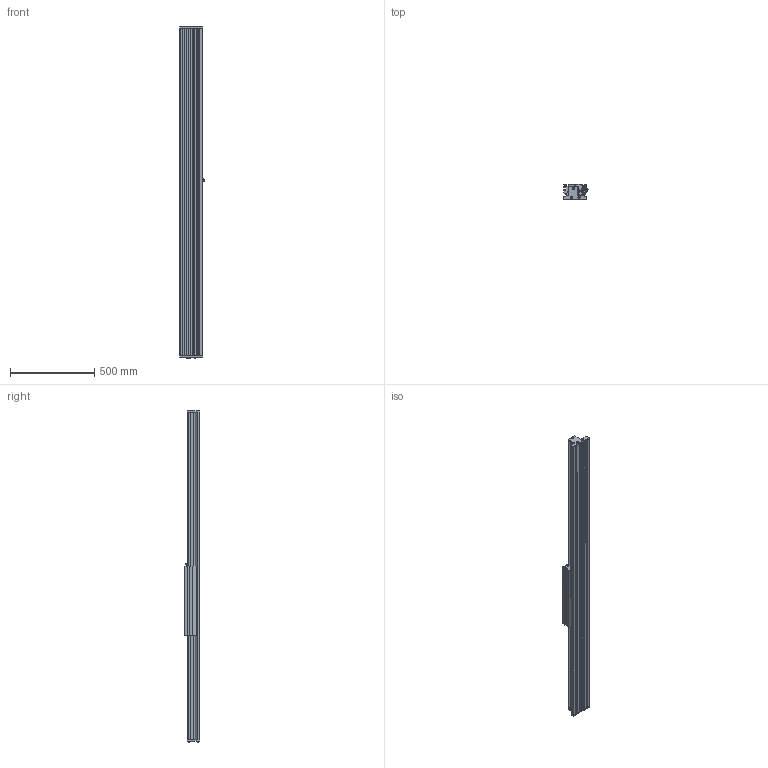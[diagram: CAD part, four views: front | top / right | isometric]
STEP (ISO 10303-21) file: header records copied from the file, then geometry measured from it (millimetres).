
FILE_DESCRIPTION (( 'STEP AP214' ), '1' );
FILE_NAME ('SINADRIVES Linear Motor Stage MLL20630XS-XX-1-0-ST-00-01956.STEP', '2015-07-07T07:56:38', ( 'Tecnico' ), ( '' ), 'SwSTEP 2.0', 'SolidWorks 2009', '' );
FILE_SCHEMA (( 'AUTOMOTIVE_DESIGN' ));
Length unit declared in the file: millimetre
Products named in the file (7): SINADRIVES CARRIAGE MLL20630XS-1; CARRIAGE MLL20630; Connector power+signal Y-tec 45; SINADRIVES PROFILE MLL2XXXX-1940; SINADRIVES ENDBLOCK MLL2; SINADRIVES ENDBLOCK MLL2-2; SINADRIVES Linear Motor Stage MLL20630XS-XX-1-0-ST-00-01956
Assembly tree (6 placements, depth 3):
  SINADRIVES Linear Motor Stage MLL20630XS-XX-1-0-ST-00-01956
    SINADRIVES ENDBLOCK MLL2-2
    SINADRIVES CARRIAGE MLL20630XS-1
      CARRIAGE MLL20630
      Connector power+signal Y-tec 45
    SINADRIVES PROFILE MLL2XXXX-1940
    SINADRIVES ENDBLOCK MLL2
Bounding box: 144.43 x 91 x 1964.8 mm (x, y, z)
Volume: 10085561.5 mm3; surface area: 1717730.4 mm2
Topology: 2 solids, 42 shells, 950 faces, 2640 edges, 1730 vertices
Faces by surface type: plane 445, cylinder 302, bspline 79, cone 70, torus 42, sphere 12
Entity records: 40587 total; most frequent: CARTESIAN_POINT 8656, ORIENTED_EDGE 5024, DIRECTION 4947, EDGE_CURVE 2622, AXIS2_PLACEMENT_3D 1781, VERTEX_POINT 1730, LINE 1385, VECTOR 1385
